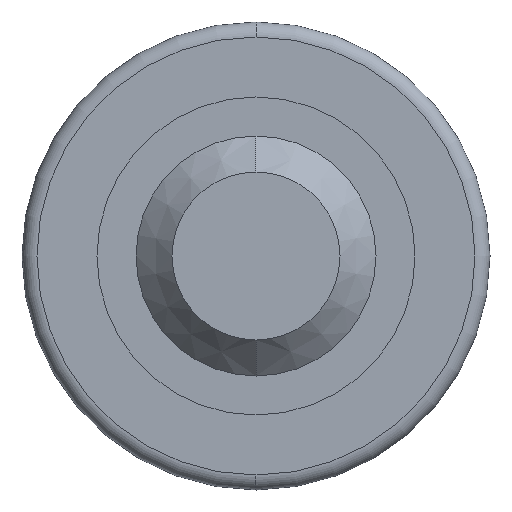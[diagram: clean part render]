
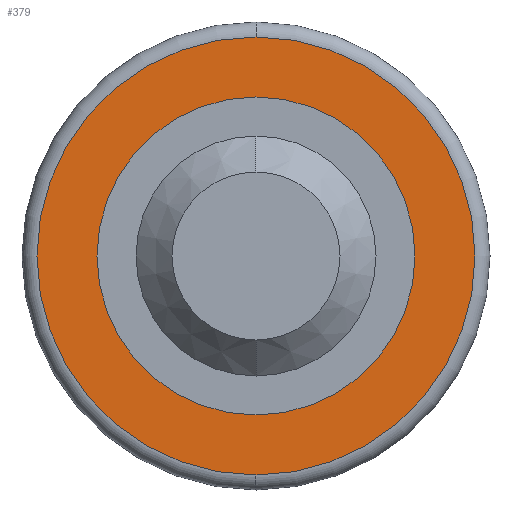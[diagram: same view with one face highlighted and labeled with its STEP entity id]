
A CAD part, left-side view. The second image highlights one B-rep face of the part: STEP entity #379.
In plain terms, the highlighted planar face has unit normal (-1, 0, 0).
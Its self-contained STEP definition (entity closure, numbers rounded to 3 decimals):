
#6 = CARTESIAN_POINT ( 'NONE',  ( 14.7, 0., 0. ) ) ;
#7 = DIRECTION ( 'NONE',  ( 0., 0., -1. ) ) ;
#15 = AXIS2_PLACEMENT_3D ( 'NONE', #486, #554, #482 ) ;
#31 = PLANE ( 'NONE',  #66 ) ;
#64 = ORIENTED_EDGE ( 'NONE', *, *, #435, .T. ) ;
#66 = AXIS2_PLACEMENT_3D ( 'NONE', #476, #312, #622 ) ;
#67 = VERTEX_POINT ( 'NONE', #250 ) ;
#86 = CIRCLE ( 'NONE', #15, 36.5 ) ;
#101 = AXIS2_PLACEMENT_3D ( 'NONE', #181, #560, #118 ) ;
#111 = ORIENTED_EDGE ( 'NONE', *, *, #401, .T. ) ;
#114 = DIRECTION ( 'NONE',  ( 1., 0., 0. ) ) ;
#118 = DIRECTION ( 'NONE',  ( 0., 0., 1. ) ) ;
#120 = EDGE_LOOP ( 'NONE', ( #651, #64 ) ) ;
#168 = CIRCLE ( 'NONE', #251, 26.5 ) ;
#178 = EDGE_LOOP ( 'NONE', ( #111, #567 ) ) ;
#181 = CARTESIAN_POINT ( 'NONE',  ( 14.7, 0., 0. ) ) ;
#225 = CIRCLE ( 'NONE', #101, 36.5 ) ;
#250 = CARTESIAN_POINT ( 'NONE',  ( 14.7, 0., 36.5 ) ) ;
#251 = AXIS2_PLACEMENT_3D ( 'NONE', #447, #114, #636 ) ;
#312 = DIRECTION ( 'NONE',  ( -1., 0., 0. ) ) ;
#329 = AXIS2_PLACEMENT_3D ( 'NONE', #6, #446, #7 ) ;
#340 = VERTEX_POINT ( 'NONE', #368 ) ;
#362 = FACE_OUTER_BOUND ( 'NONE', #178, .T. ) ;
#368 = CARTESIAN_POINT ( 'NONE',  ( 14.7, 0., -36.5 ) ) ;
#379 = ADVANCED_FACE ( 'NONE', ( #362, #525 ), #31, .T. ) ;
#386 = CARTESIAN_POINT ( 'NONE',  ( 14.7, 0., 26.5 ) ) ;
#401 = EDGE_CURVE ( 'NONE', #67, #340, #225, .T. ) ;
#435 = EDGE_CURVE ( 'NONE', #675, #501, #168, .T. ) ;
#446 = DIRECTION ( 'NONE',  ( 1., 0., 0. ) ) ;
#447 = CARTESIAN_POINT ( 'NONE',  ( 14.7, 0., 0. ) ) ;
#468 = EDGE_CURVE ( 'NONE', #501, #675, #534, .T. ) ;
#476 = CARTESIAN_POINT ( 'NONE',  ( 14.7, 0., -39. ) ) ;
#482 = DIRECTION ( 'NONE',  ( 0., 0., 1. ) ) ;
#486 = CARTESIAN_POINT ( 'NONE',  ( 14.7, 0., 0. ) ) ;
#501 = VERTEX_POINT ( 'NONE', #645 ) ;
#525 = FACE_BOUND ( 'NONE', #120, .T. ) ;
#534 = CIRCLE ( 'NONE', #329, 26.5 ) ;
#554 = DIRECTION ( 'NONE',  ( -1., 0., 0. ) ) ;
#560 = DIRECTION ( 'NONE',  ( -1., 0., 0. ) ) ;
#567 = ORIENTED_EDGE ( 'NONE', *, *, #602, .T. ) ;
#602 = EDGE_CURVE ( 'NONE', #340, #67, #86, .T. ) ;
#622 = DIRECTION ( 'NONE',  ( 0., 0., 1. ) ) ;
#636 = DIRECTION ( 'NONE',  ( 0., 0., -1. ) ) ;
#645 = CARTESIAN_POINT ( 'NONE',  ( 14.7, 0., -26.5 ) ) ;
#651 = ORIENTED_EDGE ( 'NONE', *, *, #468, .T. ) ;
#675 = VERTEX_POINT ( 'NONE', #386 ) ;
